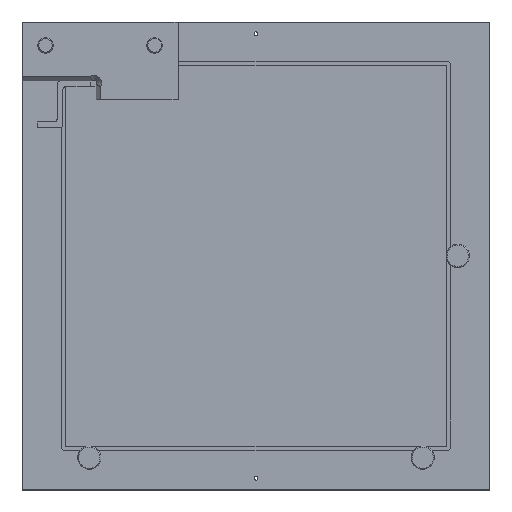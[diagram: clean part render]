
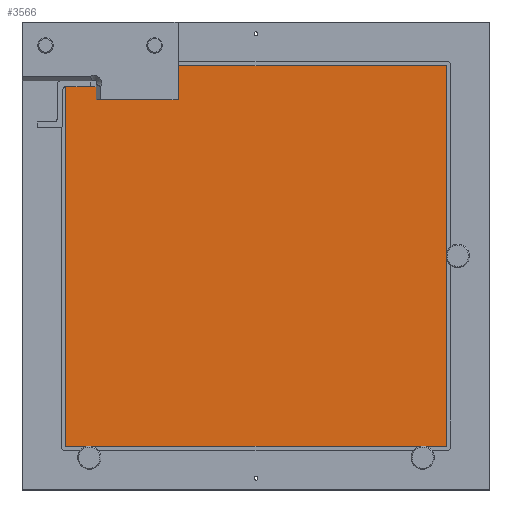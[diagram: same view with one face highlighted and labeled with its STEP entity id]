
A CAD part, top view. The second image highlights one B-rep face of the part: STEP entity #3566.
In plain terms, the highlighted planar face has unit normal (0, 0, 1) as drawn and (0, 0, -1) by its records, which use the part's own axes.
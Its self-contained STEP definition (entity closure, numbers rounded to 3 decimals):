
#3527=CARTESIAN_POINT('Axis2P3D Location',(0.,0.,0.)) ;
#3532=CARTESIAN_POINT('Line Origine',(0.,48.77,0.)) ;
#3536=CARTESIAN_POINT('Vertex',(48.77,48.77,0.)) ;
#3538=CARTESIAN_POINT('Vertex',(-48.77,48.77,0.)) ;
#3541=CARTESIAN_POINT('Line Origine',(48.77,0.,0.)) ;
#3545=CARTESIAN_POINT('Vertex',(48.77,-48.77,0.)) ;
#3548=CARTESIAN_POINT('Line Origine',(0.,-48.77,0.)) ;
#3552=CARTESIAN_POINT('Vertex',(-48.77,-48.77,0.)) ;
#3555=CARTESIAN_POINT('Line Origine',(-48.77,0.,0.)) ;
#3528=DIRECTION('Axis2P3D Direction',(0.,0.,1.)) ;
#3529=DIRECTION('Axis2P3D XDirection',(1.,0.,0.)) ;
#3533=DIRECTION('Vector Direction',(1.,0.,0.)) ;
#3542=DIRECTION('Vector Direction',(0.,1.,0.)) ;
#3549=DIRECTION('Vector Direction',(-1.,0.,0.)) ;
#3556=DIRECTION('Vector Direction',(0.,-1.,0.)) ;
#3530=AXIS2_PLACEMENT_3D('Plane Axis2P3D',#3527,#3528,#3529) ;
#3561=ORIENTED_EDGE('',*,*,#3540,.F.) ;
#3562=ORIENTED_EDGE('',*,*,#3547,.F.) ;
#3563=ORIENTED_EDGE('',*,*,#3554,.F.) ;
#3564=ORIENTED_EDGE('',*,*,#3559,.F.) ;
#3534=VECTOR('Line Direction',#3533,1.) ;
#3543=VECTOR('Line Direction',#3542,1.) ;
#3550=VECTOR('Line Direction',#3549,1.) ;
#3557=VECTOR('Line Direction',#3556,1.) ;
#3566=ADVANCED_FACE('Corps principal',(#3565),#3531,.F.) ;
#3540=EDGE_CURVE('',#3537,#3539,#3535,.F.) ;
#3547=EDGE_CURVE('',#3546,#3537,#3544,.T.) ;
#3554=EDGE_CURVE('',#3553,#3546,#3551,.F.) ;
#3559=EDGE_CURVE('',#3539,#3553,#3558,.T.) ;
#3560=EDGE_LOOP('',(#3561,#3562,#3563,#3564)) ;
#3565=FACE_OUTER_BOUND('',#3560,.T.) ;
#3535=LINE('Line',#3532,#3534) ;
#3544=LINE('Line',#3541,#3543) ;
#3551=LINE('Line',#3548,#3550) ;
#3558=LINE('Line',#3555,#3557) ;
#3531=PLANE('Plane',#3530) ;
#3537=VERTEX_POINT('',#3536) ;
#3539=VERTEX_POINT('',#3538) ;
#3546=VERTEX_POINT('',#3545) ;
#3553=VERTEX_POINT('',#3552) ;
